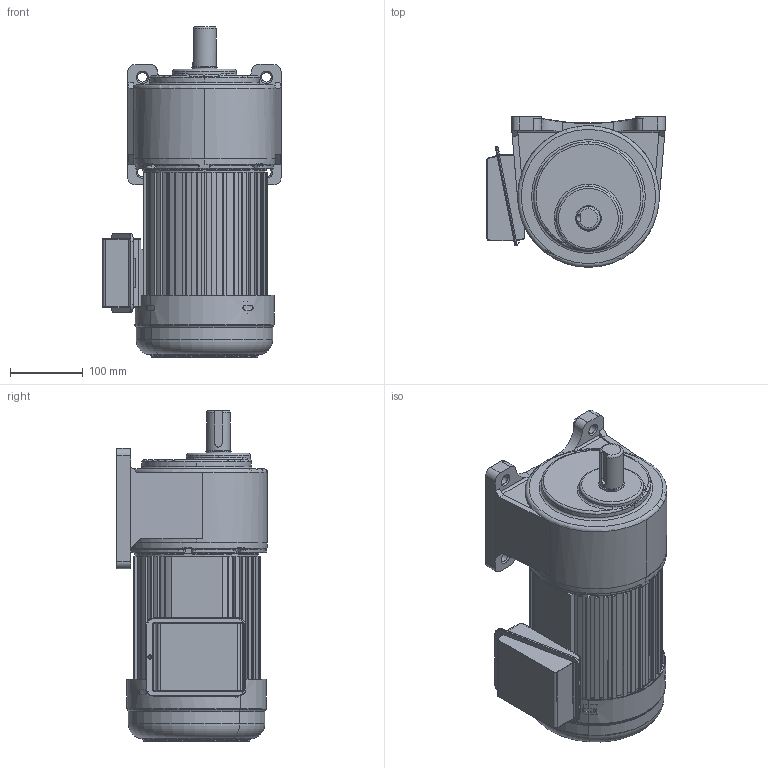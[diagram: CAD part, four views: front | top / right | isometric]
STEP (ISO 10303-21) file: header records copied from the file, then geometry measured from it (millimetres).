
FILE_DESCRIPTION(('HOOPS Exchange Step'),'2;1');
FILE_NAME('D:/conver/TZT.New3D001/output/1763f144-8ace-4305-9e00-8781bc03a249/ZH1500-C(Z)-3K-30K(40K-100K)(32轴）.step','2026-07-28T14:55:55+08:00',('SYSTEM'),('Unknown organisation'),'HOOPS Exchange 2024.3','HOOPS Exchange','Unknown authorisation');
FILE_SCHEMA( ('AP203_CONFIGURATION_CONTROLLED_3D_DESIGN_OF_MECHANICAL_PARTS_AND_ASSEMBLIES_MIM_LF') );
Length unit declared in the file: millimetre
Products named in the file (1): AdmiE513rs65
Bounding box: 244.09 x 206.5 x 453.5 mm (x, y, z)
Volume: 8695400.4 mm3; surface area: 673667.7 mm2
Topology: 1 solids, 1 shells, 1879 faces, 5226 edges, 3391 vertices
Faces by surface type: plane 993, cylinder 540, torus 162, bspline 90, cone 80, sphere 14
Full cylindrical faces by diameter (mm): 32 x1, 35 x1
Entity records: 68243 total; most frequent: CARTESIAN_POINT 19998, ORIENTED_EDGE 10452, DIRECTION 9497, EDGE_CURVE 5226, VERTEX_POINT 3391, AXIS2_PLACEMENT_3D 3173, VECTOR 3151, LINE 3151
